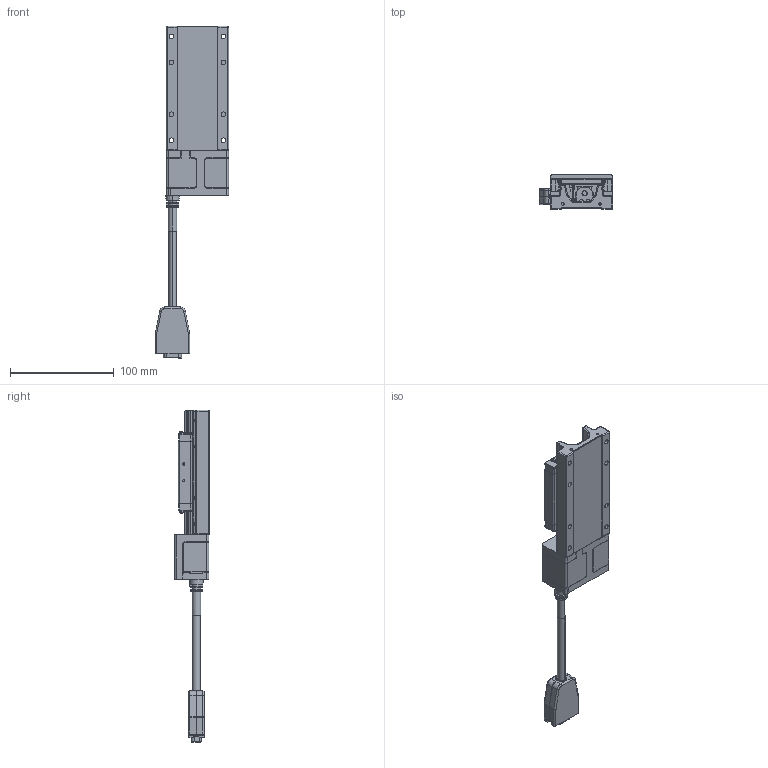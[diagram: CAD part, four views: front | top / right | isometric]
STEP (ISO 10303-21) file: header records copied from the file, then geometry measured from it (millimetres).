
FILE_DESCRIPTION (( 'STEP AP203' ), '1' );
FILE_NAME ('CXN6030-S2?N(µL°¨¹F).S', '2024-01-05T03:15:07', ( '' ), ( '' ), 'SwSTEP 2.0', 'SolidWorks 2019', '' );
FILE_SCHEMA (( 'CONFIG_CONTROL_DESIGN' ));
Products named in the file (3): CXN6030-S2?N(無馬達); Group2^CXN6030-S2?N(28框無馬達)_defeature_GMT; Group1^CXN6030-S2?N(28框無馬達)_defeature_GMT
Assembly tree (2 placements, depth 2):
  CXN6030-S2?N(無馬達)
    Group1^CXN6030-S2?N(28框無馬達)_defeature_GMT
    Group2^CXN6030-S2?N(28框無馬達)_defeature_GMT
Bounding box: 70.5 x 33.5 x 319.6 mm (x, y, z)
Volume: 35869.7 mm3; surface area: 90271.7 mm2
Topology: 29 solids, 32 shells, 3973 faces, 9975 edges, 6024 vertices
Faces by surface type: plane 1493, cylinder 1209, cone 485, bspline 312, torus 298, sphere 176
Entity records: 129652 total; most frequent: CARTESIAN_POINT 35584, DIRECTION 20104, ORIENTED_EDGE 19528, EDGE_CURVE 9764, AXIS2_PLACEMENT_3D 7487, VERTEX_POINT 5981, LINE 5130, VECTOR 5130
